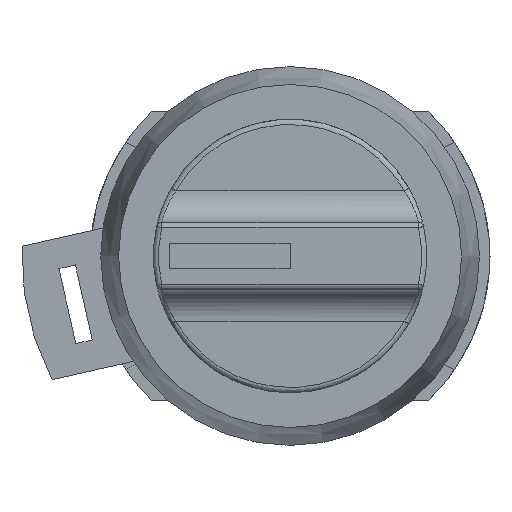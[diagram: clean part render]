
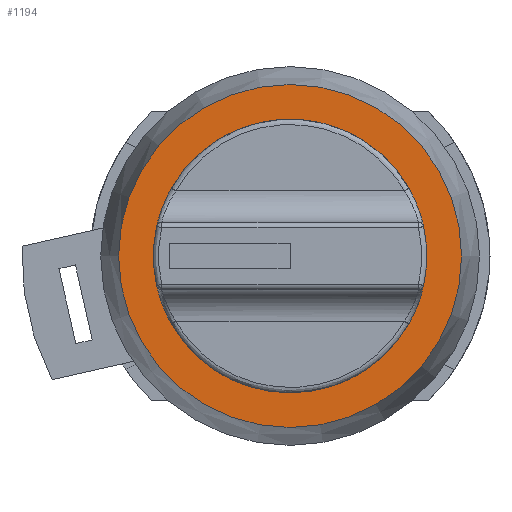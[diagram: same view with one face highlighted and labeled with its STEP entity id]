
A CAD part, left-side view. The second image highlights one B-rep face of the part: STEP entity #1194.
In plain terms, the highlighted planar face has unit normal (-1, 0, 0).
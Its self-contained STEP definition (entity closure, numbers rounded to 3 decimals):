
#1194 = ADVANCED_FACE ( 'NONE', ( #5430, #5422 ), #8150, .T. ) ;
#2303 = EDGE_CURVE ( 'NONE', #14961, #14961, #13214, .T. ) ;
#2322 = EDGE_CURVE ( 'NONE', #14973, #14973, #13237, .T. ) ;
#3572 = ORIENTED_EDGE ( 'NONE', *, *, #2303, .T. ) ;
#3573 = ORIENTED_EDGE ( 'NONE', *, *, #2322, .F. ) ;
#4480 = EDGE_LOOP ( 'NONE', ( #3573 ) ) ;
#4483 = EDGE_LOOP ( 'NONE', ( #3572 ) ) ;
#5422 = FACE_OUTER_BOUND ( 'NONE', #4480, .T. ) ;
#5430 = FACE_BOUND ( 'NONE', #4483, .T. ) ;
#6041 = AXIS2_PLACEMENT_3D ( 'NONE', #8142, #8151, #8152 ) ;
#6659 = AXIS2_PLACEMENT_3D ( 'NONE', #12848, #12856, #12857 ) ;
#6669 = AXIS2_PLACEMENT_3D ( 'NONE', #12921, #13666, #13667 ) ;
#8142 = CARTESIAN_POINT ( 'NONE',  ( 0., 11.15, 0. ) ) ;
#8150 = PLANE ( 'NONE',  #6041 ) ;
#8151 = DIRECTION ( 'NONE',  ( -1., 0., 0. ) ) ;
#8152 = DIRECTION ( 'NONE',  ( 0., 0., 1. ) ) ;
#12848 = CARTESIAN_POINT ( 'NONE',  ( 0., 0., 0. ) ) ;
#12856 = DIRECTION ( 'NONE',  ( 1., 0., 0. ) ) ;
#12857 = DIRECTION ( 'NONE',  ( 0., 0., -1. ) ) ;
#12921 = CARTESIAN_POINT ( 'NONE',  ( 0., 0., 0. ) ) ;
#13214 = CIRCLE ( 'NONE', #6659, 6. ) ;
#13237 = CIRCLE ( 'NONE', #6669, 16.3 ) ;
#13666 = DIRECTION ( 'NONE',  ( 1., 0., 0. ) ) ;
#13667 = DIRECTION ( 'NONE',  ( 0., 1., 0. ) ) ;
#14961 = VERTEX_POINT ( 'NONE', #14962 ) ;
#14962 = CARTESIAN_POINT ( 'NONE',  ( 0., 0., -6. ) ) ;
#14973 = VERTEX_POINT ( 'NONE', #14974 ) ;
#14974 = CARTESIAN_POINT ( 'NONE',  ( 0., 16.3, 0. ) ) ;
